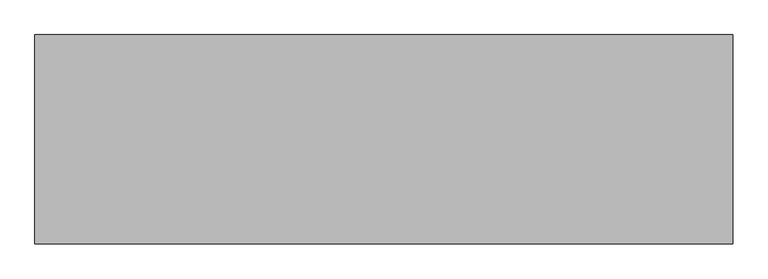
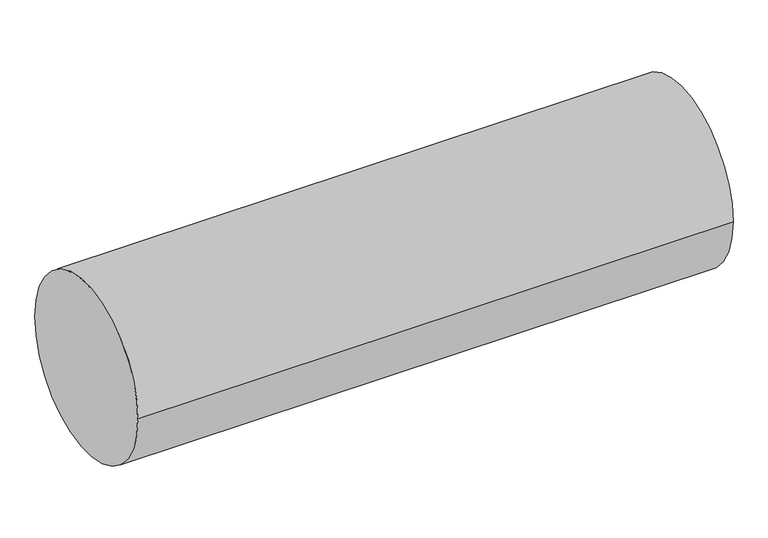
"""IFC4 building model written with IfcOpenShell, lengths in millimetres: furniture geometry, Hochwasserschutzelement : Hochwasserschutzelement."""

from ifc_helpers import new_model, si_unit, point, frame, origin, origin_2d, place, context, project, spatial, circle_curve, trimmed, segment, composite_curve, outline, extrude, source, transform, mapped, element, save


def furniture_6815aafc(model_context):
    return source(origin(), model_context, "Body", "SweptSolid", [
        extrude(outline(composite_curve([segment(trimmed(circle_curve(origin_2d(), 150.0), [point((150.0, 0.0))], [point((-150.0, 0.0))], False, "CARTESIAN"), True, "CONTINUOUS"), segment(trimmed(circle_curve(origin_2d(), 150.0), [point((-150.0, 0.0))], [point((150.0, 0.0))], False, "CARTESIAN"), True, "CONTINUOUS")], self_intersect=False)), frame((-500.0, 0.0, 0.0), z_axis=(1.0, 0.0, 0.0), x_axis=(0.0, 1.0, 0.0)), (0.0, 0.0, 1.0), 1000.0),
    ])


if __name__ == "__main__":
    model = new_model("IFC4")
    model_context = context("Model", 3, world=origin())
    ifc_project = project(units=[si_unit("LENGTHUNIT", "METRE", prefix="MILLI")], contexts=[model_context])
    site = spatial("IfcSite", under=ifc_project)
    building = spatial("IfcBuilding", under=site)
    placement = place(None, origin())
    furniture_shape = furniture_6815aafc(model_context)
    element("IfcFurniture", 1, ObjectType="Hochwasserschutzelement : Hochwasserschutzelement", at=placement, inside=building, context=model_context, shape_type="MappedRepresentation", body=[
        mapped(furniture_shape, transform((0.0, 0.0, 0.0), x_axis=(1.0, 0.0, 0.0), y_axis=(0.0, 1.0, 0.0), z_axis=(0.0, 0.0, 1.0))),
    ])
    save(model, "model.ifc")
